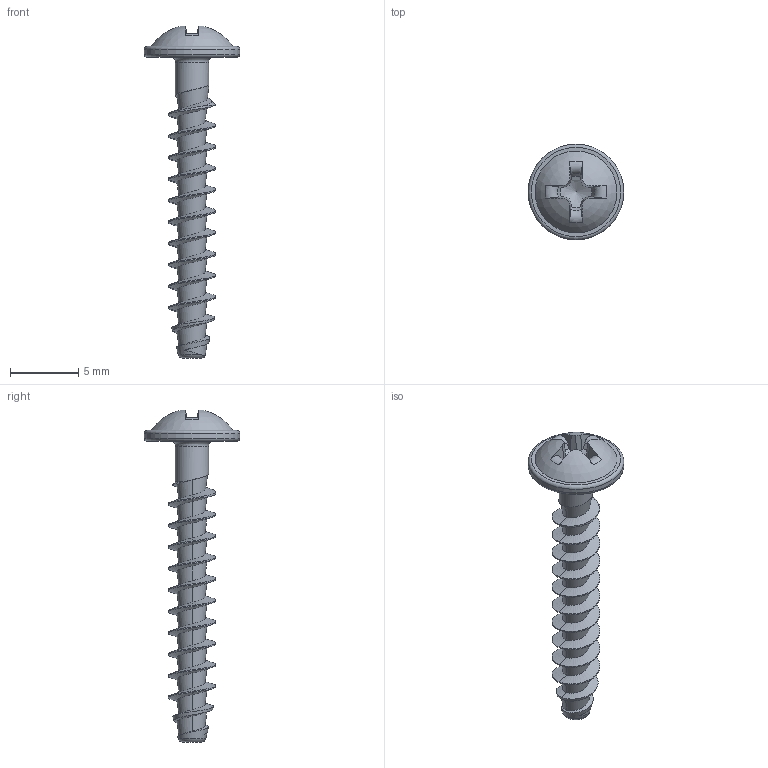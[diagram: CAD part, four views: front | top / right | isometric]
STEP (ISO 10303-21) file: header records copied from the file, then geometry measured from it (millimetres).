
FILE_DESCRIPTION(/* description */ (''),/* implementation_level */ '2;1');
FILE_NAME(/* name */ 'KN1031-Neu-STS-35x22-H2.step',/* time_stamp */ '2017-10-12T13:09:38+02:00',/* author */ (''),/* organization */ (''),/* preprocessor_version */ 'ST-DEVELOPER v16',/* originating_system */ 'SIEMENS PLM Software NX 10.0',/* authorisation */ '');
FILE_SCHEMA (('AUTOMOTIVE_DESIGN { 1 0 10303 214 3 1 1 1 }'));
Length unit declared in the file: millimetre
Products named in the file (1): KN1031-Neu-STS-35x22-H2
Bounding box: 7 x 7 x 24.29 mm (x, y, z)
Volume: 143.3 mm3; surface area: 370.6 mm2
Topology: 1 solids, 1 shells, 78 faces, 198 edges, 123 vertices
Faces by surface type: bspline 39, plane 19, torus 8, cone 7, cylinder 4, sphere 1
Full cylindrical faces by diameter (mm): 2.44 x1, 7 x1
Entity records: 4821 total; most frequent: CARTESIAN_POINT 3287, ORIENTED_EDGE 364, DIRECTION 206, EDGE_CURVE 182, VERTEX_POINT 117, B_SPLINE_CURVE_WITH_KNOTS 94, EDGE_LOOP 86, AXIS2_PLACEMENT_3D 79
